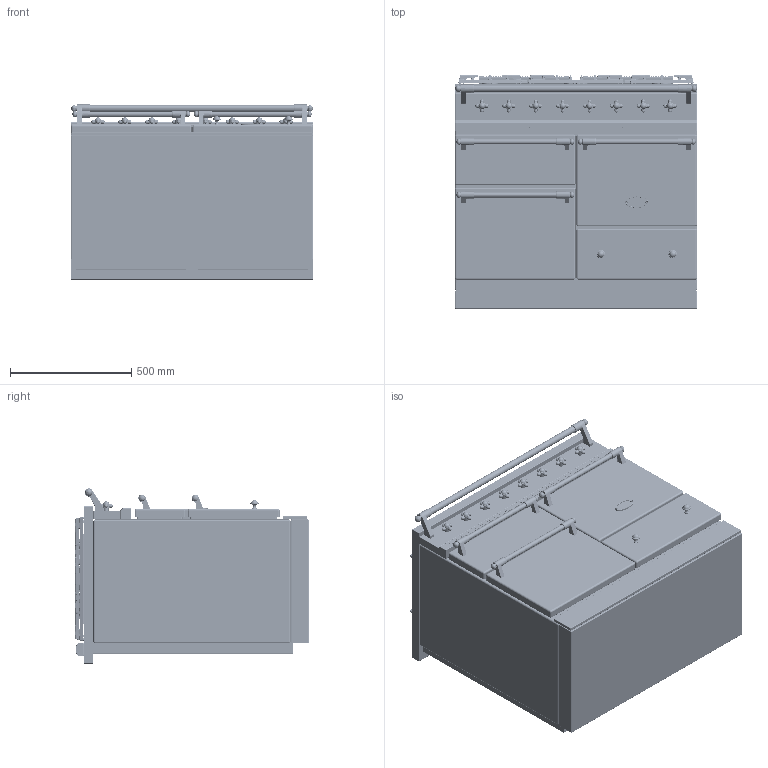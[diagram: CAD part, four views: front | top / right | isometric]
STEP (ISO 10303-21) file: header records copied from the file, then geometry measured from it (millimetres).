
FILE_DESCRIPTION((''),'2;1');
FILE_NAME('LG1053_ASM','2021-12-02T09:48:03',('j.cheno'),(''),'CREO PARAMETRIC BY PTC INC, 2017260','CREO PARAMETRIC BY PTC INC, 2017260','');
FILE_SCHEMA(('AP203_CONFIGURATION_CONTROLLED_3D_DESIGN_OF_MECHANICAL_PARTS_AND_ASSEMBLIES_MIM_LF { 1 0 10303 403 2 1 2 }'));
Products named in the file (26): BASE_EXPORT_CHAGNY; 65650003; 65650004; 6531940; 6531941; 6538399; 1931942; 65080022_AF0; 6531942_ASM; 6531943; 65049009; 65650001; BASE_EXPORT_CHAGNY_ASM; TABLE_1000_CLASSIQUE; 3KW; 5KW; 1_5KW; 4KW; 6537025; 65149005; 90000488_ASM; 6537024; 90000487_ASM; CHEMINEE_2020_LG371_EXPORT_STEP; TABLE_1000_CLASSIQUE_ASM; LG1053_ASM
Assembly tree (48 placements, depth 4):
  LG1053_ASM
    BASE_EXPORT_CHAGNY_ASM
      BASE_EXPORT_CHAGNY
      65650003
      65650004
      6531940  x3
      6531941  x3
      6531942_ASM  x8
        6538399
        1931942
        65080022_AF0
      6531943  x2
      65049009
      65650001
    TABLE_1000_CLASSIQUE_ASM
      TABLE_1000_CLASSIQUE
      3KW  x2
      5KW
      1_5KW
      4KW
      90000488_ASM  x2
        6537025
        65149005
      90000487_ASM  x2
        6537024
        65149005
      CHEMINEE_2020_LG371_EXPORT_STEP  x2
Bounding box: 1000 x 965 x 724 mm (x, y, z)
Volume: 534264108.7 mm3; surface area: 8938038.2 mm2
Topology: 72 solids, 82 shells, 8073 faces, 20779 edges, 12795 vertices
Faces by surface type: plane 3252, cylinder 2394, bspline 1186, cone 387, torus 310, extrusion 266, sphere 262, revolution 16
Entity records: 148320 total; most frequent: CARTESIAN_POINT 47144, ORIENTED_EDGE 16984, DIRECTION 15277, EDGE_CURVE 8502, AXIS2_PLACEMENT_3D 5315, VERTEX_POINT 5231, PRESENTATION_STYLE_ASSIGNMENT 4838, STYLED_ITEM 4815
